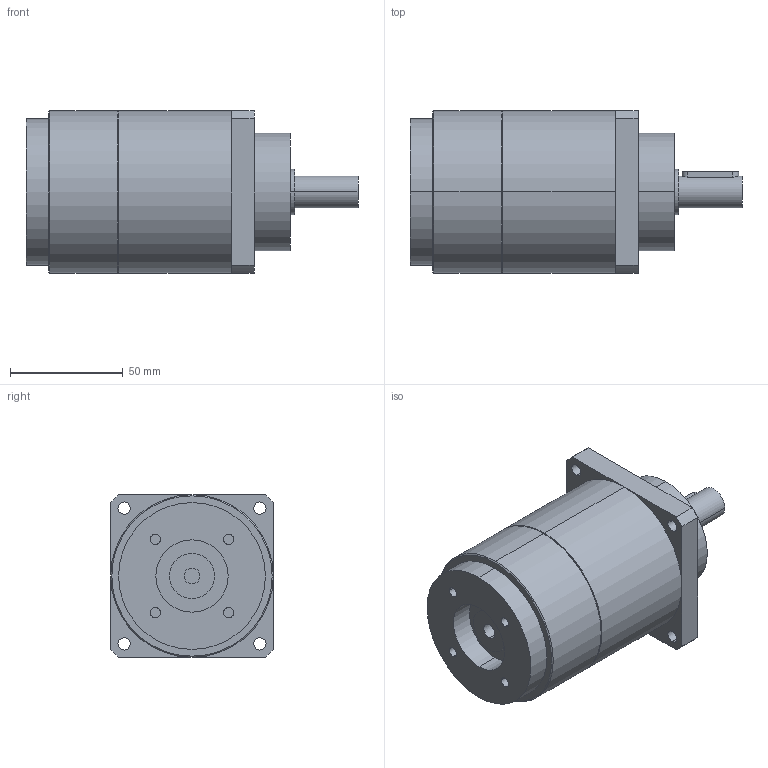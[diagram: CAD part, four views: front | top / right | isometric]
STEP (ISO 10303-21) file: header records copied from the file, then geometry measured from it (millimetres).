
FILE_DESCRIPTION(('CoCreate Modeling STEP Export'),'2;1');
FILE_NAME('GPT75_ig-9-12-16-20-25-28-35-40-50-70-100_14_B5T_7_P12.stp','2014-08-27T13:40:51',(''),(''),'CoCreate Modeling STEP processor for AP214 (Solid Model)','CoCreate Modeling 16.00C 25-Feb-2009 (C) Parametric Technology GmbH','');
FILE_SCHEMA(('AUTOMOTIVE_DESIGN { 1 0 10303 214 1 1 1 1 }'));
Length unit declared in the file: millimetre
Products named in the file (2): GPT75_ig-9-12-16-20-25-28-35-40-50-70-100_14_B5T_7_P12
Assembly tree (1 placements, depth 2):
  GPT75_ig-9-12-16-20-25-28-35-40-50-70-100_14_B5T_7_P12
    GPT75_ig-9-12-16-20-25-28-35-40-50-70-100_14_B5T_7_P12
Bounding box: 147 x 72 x 72 mm (x, y, z)
Volume: 443700.1 mm3; surface area: 40859.9 mm2
Topology: 1 solids, 1 shells, 72 faces, 170 edges, 113 vertices
Faces by surface type: cylinder 42, plane 26, cone 4
Entity records: 2201 total; most frequent: CARTESIAN_POINT 669, ORIENTED_EDGE 340, DIRECTION 268, EDGE_CURVE 170, VERTEX_POINT 113, AXIS2_PLACEMENT_3D 100, EDGE_LOOP 93, FACE_OUTER_BOUND 72
